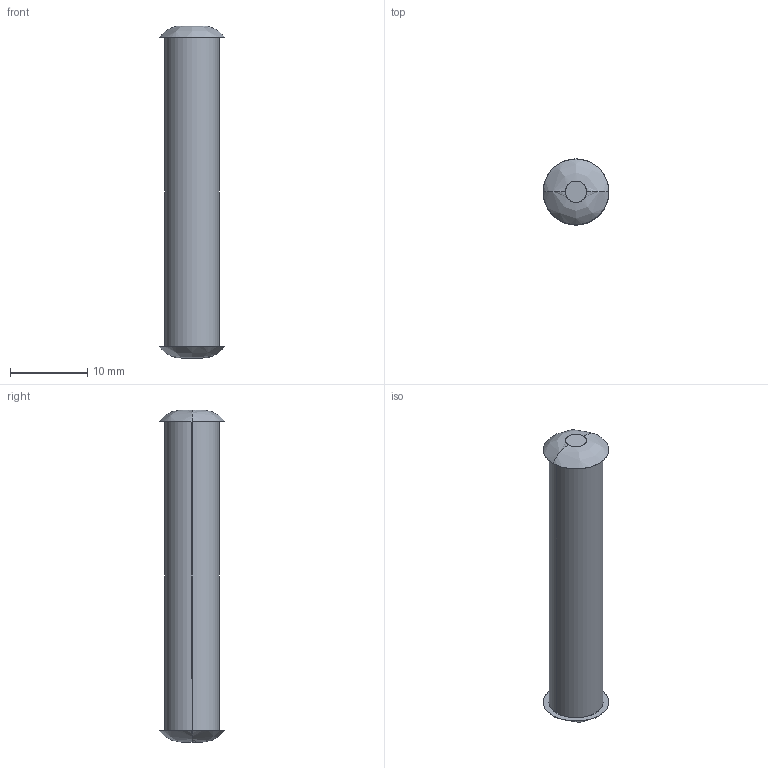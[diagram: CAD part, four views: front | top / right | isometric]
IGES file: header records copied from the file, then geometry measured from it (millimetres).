
Start section: SolidWorks IGES file using analytic representation for surfaces
Global section: file name: C:\Users\cbrechard.SAV\Desktop\CC 434\433.030.00.IGS; native system: SolidWorks 2013; preprocessor: SolidWorks 2013; author: cbrechard; date: 150209.110206; units: millimetre
Bounding box: 8.5 x 8.5 x 43 mm (x, y, z)
Surface area: 1052.4 mm2 (no closed solid volume)
Topology: 0 solids, 0 shells, 10 faces, 216 edges, 216 vertices
Faces by surface type: bspline 8, revolution 2
